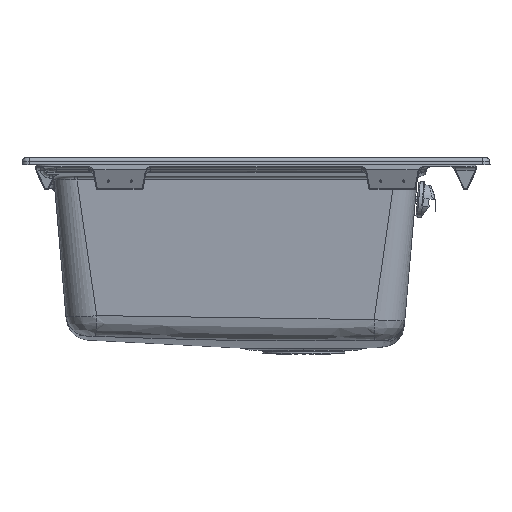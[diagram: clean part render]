
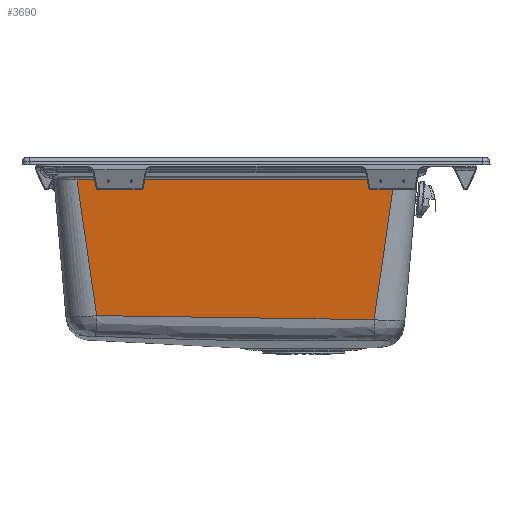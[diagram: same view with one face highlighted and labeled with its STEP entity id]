
A CAD part, front view. The second image highlights one B-rep face of the part: STEP entity #3690.
In plain terms, the highlighted planar face has unit normal (0, -0.996, -0.087).
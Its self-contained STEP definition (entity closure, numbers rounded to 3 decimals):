
#2182=(
BOUNDED_CURVE()
B_SPLINE_CURVE(3,(#34636,#34637,#34638,#34639,#34640,#34641,#34642,#34643),
 .UNSPECIFIED.,.F.,.F.)
B_SPLINE_CURVE_WITH_KNOTS((4,2,2,4),(-1.,-0.75,-0.5,0.),.UNSPECIFIED.)
CURVE()
GEOMETRIC_REPRESENTATION_ITEM()
RATIONAL_B_SPLINE_CURVE((1.,1.,1.,1.,1.,1.,1.,1.))
REPRESENTATION_ITEM('')
);
#2192=(
BOUNDED_CURVE()
B_SPLINE_CURVE(1,(#34944,#34945),.UNSPECIFIED.,.F.,.F.)
B_SPLINE_CURVE_WITH_KNOTS((2,2),(-76.747,-6.961),
 .UNSPECIFIED.)
CURVE()
GEOMETRIC_REPRESENTATION_ITEM()
RATIONAL_B_SPLINE_CURVE((1.,1.))
REPRESENTATION_ITEM('')
);
#3690=ADVANCED_FACE('',(#4991),#21228,.T.);
#4991=FACE_OUTER_BOUND('',#6311,.T.);
#6311=EDGE_LOOP('',(#8784,#8785,#8786,#8787));
#8784=ORIENTED_EDGE('',*,*,#14655,.F.);
#8785=ORIENTED_EDGE('',*,*,#14662,.F.);
#8786=ORIENTED_EDGE('',*,*,#14679,.F.);
#8787=ORIENTED_EDGE('',*,*,#14663,.F.);
#14655=EDGE_CURVE('',#19471,#19472,#2182,.T.);
#14662=EDGE_CURVE('',#19478,#19471,#17792,.T.);
#14663=EDGE_CURVE('',#19472,#19479,#17793,.T.);
#14679=EDGE_CURVE('',#19479,#19478,#2192,.T.);
#17792=B_SPLINE_CURVE_WITH_KNOTS('',1,(#34764,#34765),.UNSPECIFIED.,.F.,
 .F.,(2,2),(-6.135,0.),.UNSPECIFIED.);
#17793=B_SPLINE_CURVE_WITH_KNOTS('',1,(#34766,#34767),.UNSPECIFIED.,.F.,
 .F.,(2,2),(-5.959,0.),.UNSPECIFIED.);
#19471=VERTEX_POINT('',#32643);
#19472=VERTEX_POINT('',#32644);
#19478=VERTEX_POINT('',#32650);
#19479=VERTEX_POINT('',#32651);
#21228=PLANE('',#21971);
#21971=AXIS2_PLACEMENT_3D('',#29877,#23941,$);
#23941=DIRECTION('',(0.,-0.996,-0.087));
#29877=CARTESIAN_POINT('',(151.971,-44.751,-16.564));
#32643=CARTESIAN_POINT('',(129.949,-31.306,-170.241));
#32644=CARTESIAN_POINT('',(-175.347,-31.694,-165.805));
#32650=CARTESIAN_POINT('',(151.971,-44.751,-16.564));
#32651=CARTESIAN_POINT('',(-196.961,-44.751,-16.564));
#34636=CARTESIAN_POINT('',(129.949,-31.306,-170.241));
#34637=CARTESIAN_POINT('',(104.496,-31.266,-170.693));
#34638=CARTESIAN_POINT('',(79.046,-31.244,-170.942));
#34639=CARTESIAN_POINT('',(28.153,-31.243,-170.956));
#34640=CARTESIAN_POINT('',(2.71,-31.264,-170.72));
#34641=CARTESIAN_POINT('',(-73.611,-31.379,-169.401));
#34642=CARTESIAN_POINT('',(-124.481,-31.524,-167.742));
#34643=CARTESIAN_POINT('',(-175.347,-31.694,-165.805));
#34764=CARTESIAN_POINT('',(151.971,-44.751,-16.564));
#34765=CARTESIAN_POINT('',(129.949,-31.306,-170.241));
#34766=CARTESIAN_POINT('',(-175.347,-31.694,-165.805));
#34767=CARTESIAN_POINT('',(-196.961,-44.751,-16.564));
#34944=CARTESIAN_POINT('',(-196.961,-44.751,-16.564));
#34945=CARTESIAN_POINT('',(151.971,-44.751,-16.564));
